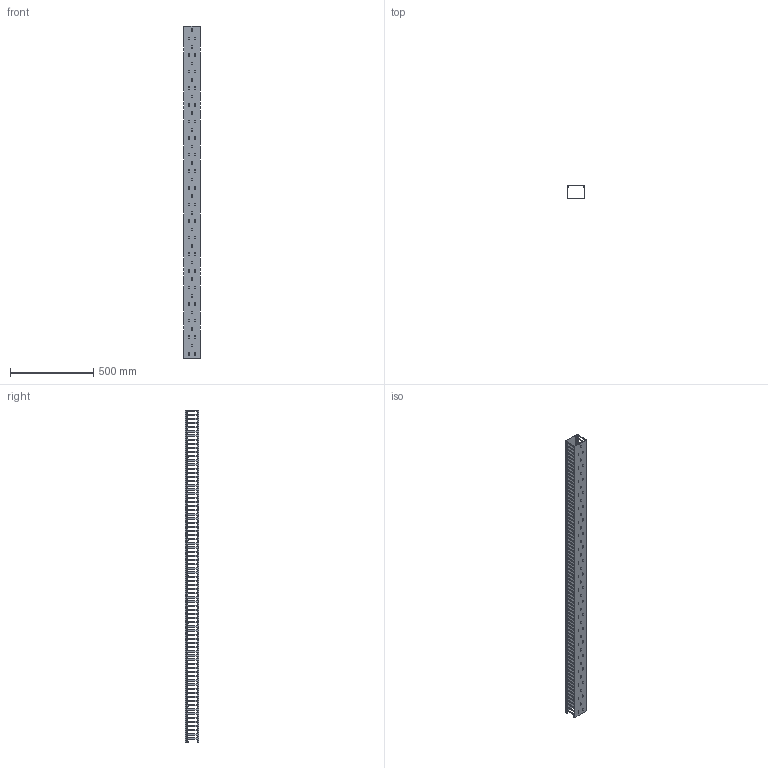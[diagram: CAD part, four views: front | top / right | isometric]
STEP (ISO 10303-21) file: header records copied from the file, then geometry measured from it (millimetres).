
FILE_DESCRIPTION (( 'STEP AP214' ), '1' );
FILE_NAME ('KD-108-20-LL.STEP', '2020-02-19T01:31:12', ( '' ), ( '' ), 'SwSTEP 2.0', 'SolidWorks 2018', '' );
FILE_SCHEMA (( 'AUTOMOTIVE_DESIGN' ));
Length unit declared in the file: millimetre
Products named in the file (3): KD-106-20-cover; KD-108-20-LL-body; KD-108-20-LL
Assembly tree (2 placements, depth 2):
  KD-108-20-LL
    KD-108-20-LL-body
    KD-106-20-cover
Bounding box: 100 x 80.17 x 2000 mm (x, y, z)
Volume: 1019804.7 mm3; surface area: 1291246.7 mm2
Topology: 2 solids, 2 shells, 1651 faces, 4941 edges, 3294 vertices
Faces by surface type: cylinder 861, plane 790
Entity records: 57099 total; most frequent: DIRECTION 9975, CARTESIAN_POINT 9891, ORIENTED_EDGE 9882, EDGE_CURVE 4941, AXIS2_PLACEMENT_3D 3378, VERTEX_POINT 3294, LINE 3219, VECTOR 3219
